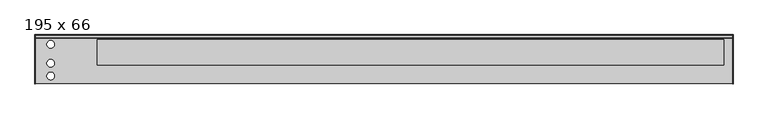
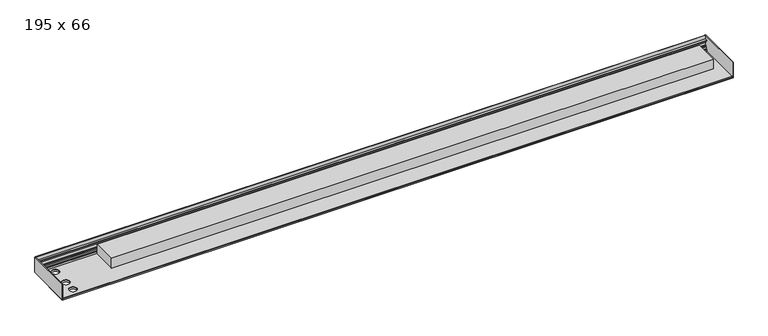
"""IFC4 building model written with IfcOpenShell, lengths in millimetres: proxy geometry, Mohlenhof_Внутрипольный конвектор_QSKM : 195 x 66."""

from ifc_helpers import new_model, si_unit, point, frame, frame_2d, origin, place, context, project, spatial, polyline, circle_curve, trimmed, segment, composite_curve, outline, extrude, source, transform, mapped, element, save


def proxy_195_x_66_8d3d11f8(model_context):
    return source(origin(), model_context, "Body", "SweptSolid", [
        extrude(outline(polyline([(-100.0, -48.5473602), (-101.5, -49.2468216), (-102.5, -49.2468216), (-102.5, -46.0008038), (-105.0, -46.0008038), (-105.0, -56.5008038), (-102.5, -56.5008038), (-102.5, -53.2468216), (-101.5, -53.2468216), (-100.0, -53.9462831), (-100.0, -66.5), (-104.0, -66.5), (-104.0, -65.2), (-102.0, -65.2), (-102.0, -62.5), (-113.0, -62.5), (-113.0, -54.9172677), (-111.5827323, -53.5), (-108.0, -53.5), (-108.0, -45.91), (-106.0, -43.91), (-106.0, -39.5), (-105.0, -39.5), (-105.0, -43.5), (-102.5043561, -43.5), (-102.5043561, -23.0), (-105.0, -23.0), (-105.0, -27.0), (-106.0, -27.0), (-106.0, -17.0), (-111.6043561, -17.0), (-111.6043561, -15.0), (-101.6, -15.0), (-101.6, 0.0), (-100.0, 0.0), (-100.0, -48.5473602)])), frame((-1373.0, 0.0, 0.0), z_axis=(1.0, 0.0, 0.0), x_axis=(0.0, 1.0, 0.0)), (0.0, 0.0, 1.0), 2746.0),
        extrude(outline(polyline([(1373.0, -104.499991), (1373.0, -290.5), (-1373.0, -290.5), (-1373.0, -104.499991), (1373.0, -104.499991)]), holes=[composite_curve([segment(trimmed(circle_curve(frame_2d((-1313.0, -138.0)), 15.0), [point((-1328.0, -138.0))], [point((-1298.0, -138.0))], True, "CARTESIAN"), True, "CONTINUOUS"), segment(trimmed(circle_curve(frame_2d((-1313.0, -138.0)), 15.0), [point((-1298.0, -138.0))], [point((-1328.0, -138.0))], True, "CARTESIAN"), True, "CONTINUOUS")], self_intersect=False), composite_curve([segment(trimmed(circle_curve(frame_2d((-1313.0, -213.0)), 15.0), [point((-1328.0, -213.0))], [point((-1298.0, -213.0))], True, "CARTESIAN"), True, "CONTINUOUS"), segment(trimmed(circle_curve(frame_2d((-1313.0, -213.0)), 15.0), [point((-1298.0, -213.0))], [point((-1328.0, -213.0))], True, "CARTESIAN"), True, "CONTINUOUS")], self_intersect=False), composite_curve([segment(trimmed(circle_curve(frame_2d((-1313.0, -263.0)), 15.0), [point((-1328.0, -263.0))], [point((-1298.0, -263.0))], True, "CARTESIAN"), True, "CONTINUOUS"), segment(trimmed(circle_curve(frame_2d((-1313.0, -263.0)), 15.0), [point((-1298.0, -263.0))], [point((-1328.0, -263.0))], True, "CARTESIAN"), True, "CONTINUOUS")], self_intersect=False)]), frame((0.0, 0.0, -71.5), z_axis=(0.0, 0.0, 1.0), x_axis=(1.0, 0.0, 0.0)), (0.0, 0.0, 1.0), 6.3),
        extrude(outline(polyline([(1373.0, -102.0), (1373.0, -293.0), (-1373.0, -293.0), (-1373.0, -102.0), (1373.0, -102.0)]), holes=[composite_curve([segment(trimmed(circle_curve(frame_2d((-1313.0, -138.0)), 15.0), [point((-1328.0, -138.0))], [point((-1298.0, -138.0))], True, "CARTESIAN"), True, "CONTINUOUS"), segment(trimmed(circle_curve(frame_2d((-1313.0, -138.0)), 15.0), [point((-1298.0, -138.0))], [point((-1328.0, -138.0))], True, "CARTESIAN"), True, "CONTINUOUS")], self_intersect=False), composite_curve([segment(trimmed(circle_curve(frame_2d((-1313.0, -213.0)), 15.0), [point((-1328.0, -213.0))], [point((-1298.0, -213.0))], True, "CARTESIAN"), True, "CONTINUOUS"), segment(trimmed(circle_curve(frame_2d((-1313.0, -213.0)), 15.0), [point((-1298.0, -213.0))], [point((-1328.0, -213.0))], True, "CARTESIAN"), True, "CONTINUOUS")], self_intersect=False), composite_curve([segment(trimmed(circle_curve(frame_2d((-1313.0, -263.0)), 15.0), [point((-1328.0, -263.0))], [point((-1298.0, -263.0))], True, "CARTESIAN"), True, "CONTINUOUS"), segment(trimmed(circle_curve(frame_2d((-1313.0, -263.0)), 15.0), [point((-1298.0, -263.0))], [point((-1328.0, -263.0))], True, "CARTESIAN"), True, "CONTINUOUS")], self_intersect=False)]), frame((0.0, 0.0, -65.2), z_axis=(0.0, 0.0, 1.0), x_axis=(1.0, 0.0, 0.0)), (0.0, 0.0, 1.0), 2.7),
        extrude(outline(polyline([(1338.0, -119.25), (1338.0, -219.25), (-1130.0, -219.25), (-1130.0, -119.25), (1338.0, -119.25)])), frame((0.0, 0.0, -62.5), z_axis=(0.0, 0.0, 1.0), x_axis=(1.0, 0.0, 0.0)), (0.0, 0.0, 1.0), 43.0),
        extrude(outline(polyline([(1375.0, -295.0), (1373.0, -295.0), (1373.0, -100.0), (1375.0, -100.0), (1375.0, -295.0)])), frame((0.0, 0.0, -66.5), z_axis=(0.0, 0.0, 1.0), x_axis=(1.0, 0.0, 0.0)), (0.0, 0.0, 1.0), 66.5),
        extrude(outline(polyline([(-1373.0, -100.0), (-1373.0, -295.0), (-1375.0, -295.0), (-1375.0, -100.0), (-1373.0, -100.0)])), frame((0.0, 0.0, -66.5), z_axis=(0.0, 0.0, 1.0), x_axis=(1.0, 0.0, 0.0)), (0.0, 0.0, 1.0), 66.5),
    ])


if __name__ == "__main__":
    model = new_model("IFC4")
    model_context = context("Model", 3, world=origin())
    ifc_project = project(units=[si_unit("LENGTHUNIT", "METRE", prefix="MILLI")], contexts=[model_context])
    site = spatial("IfcSite", under=ifc_project)
    building = spatial("IfcBuilding", under=site)
    placement = place(None, origin())
    proxy_195_x_66_shape = proxy_195_x_66_8d3d11f8(model_context)
    element("IfcBuildingElementProxy", 1, Name="Mohlenhof_Внутрипольный конвектор_QSKM : 195 x 66", ObjectType="Mohlenhof_Внутрипольный конвектор_QSKM : 195 x 66", at=placement, inside=building, context=model_context, shape_type="MappedRepresentation", body=[
        mapped(proxy_195_x_66_shape, transform((0.0, 0.0, 0.0), x_axis=(1.0, 0.0, 0.0), y_axis=(0.0, 1.0, 0.0), z_axis=(0.0, 0.0, 1.0))),
    ])
    save(model, "model.ifc")
